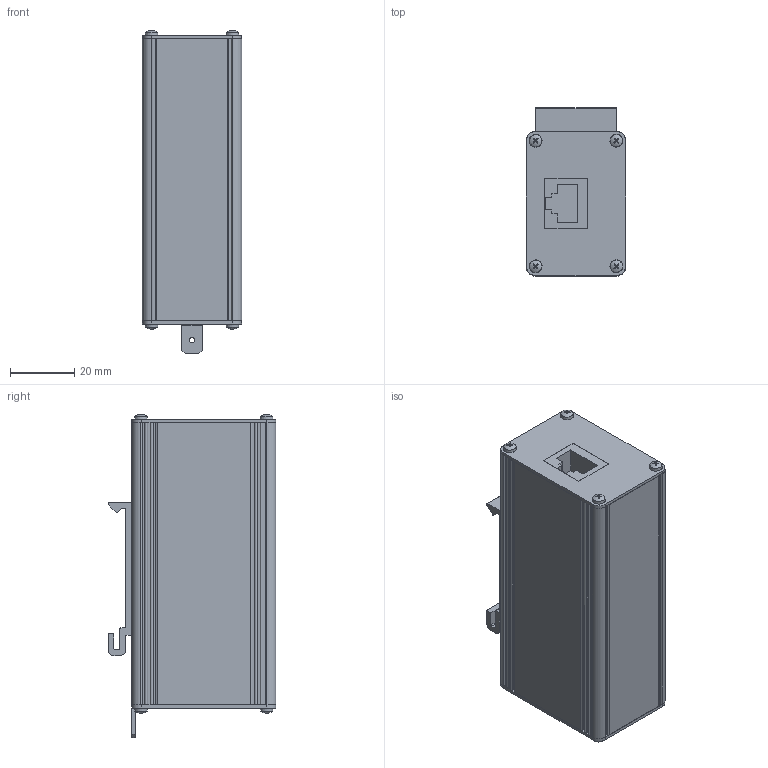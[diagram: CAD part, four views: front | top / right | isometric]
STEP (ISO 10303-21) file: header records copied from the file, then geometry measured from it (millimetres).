
FILE_DESCRIPTION(/* description */ (''),/* implementation_level */ '2;1');
FILE_NAME(/* name */ 'K:\PROJEKTY ROZPRACOVANÉ\Modely do katalogu\HT\3D - STEP\HT-NET PoE 6cat.stp',/* time_stamp */ '2017-01-02T09:16:04+01:00',/* author */ ('admin'),/* organization */ (''),/* preprocessor_version */ 'ST-DEVELOPER v16.1',/* originating_system */ 'Autodesk Inventor 2016',/* authorisation */ '');
FILE_SCHEMA (('AUTOMOTIVE_DESIGN { 1 0 10303 214 3 1 1 }'));
Length unit declared in the file: millimetre
Products named in the file (3): HT-NET PoE 6cat; ISO 7049 - ST 2,2 x 6,5 - C - H; HT-NET PoE 6cat_1
Assembly tree (9 placements, depth 2):
  HT-NET PoE 6cat_1
    HT-NET PoE 6cat
    ISO 7049 - ST 2,2 x 6,5 - C - H  x8
Bounding box: 31 x 52.4 x 100.79 mm (x, y, z)
Volume: 124069 mm3; surface area: 23428.7 mm2
Topology: 9 solids, 9 shells, 448 faces, 1210 edges, 784 vertices
Faces by surface type: plane 260, cone 88, cylinder 60, torus 32, sphere 8
Full cylindrical faces by diameter (mm): 1.685 x1, 2 x4, 2.2 x8
Entity records: 8510 total; most frequent: CARTESIAN_POINT 1599, DIRECTION 1425, ORIENTED_EDGE 1394, EDGE_CURVE 697, LINE 477, VECTOR 477, AXIS2_PLACEMENT_3D 474, VERTEX_POINT 448
